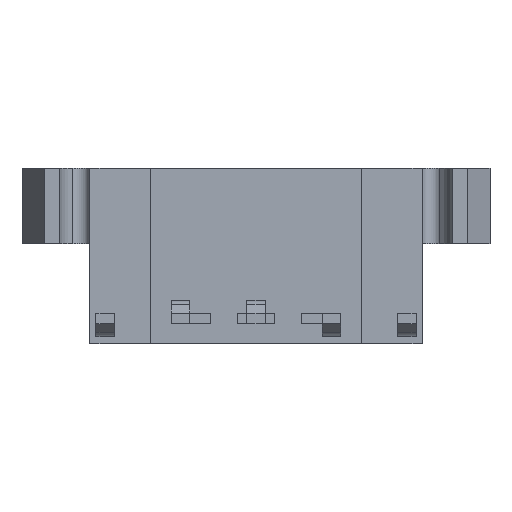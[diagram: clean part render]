
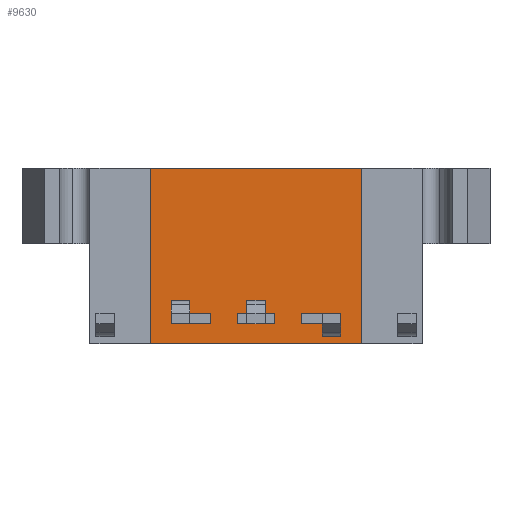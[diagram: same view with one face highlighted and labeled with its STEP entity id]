
A CAD part, front view. The second image highlights one B-rep face of the part: STEP entity #9630.
In plain terms, the highlighted planar face has unit normal (0, -1, 0).
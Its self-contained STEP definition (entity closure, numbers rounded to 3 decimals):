
#891 = LINE ( 'NONE', #11481, #916 ) ;
#893 = VECTOR ( 'NONE', #11511, 1000. ) ;
#908 = LINE ( 'NONE', #11594, #910 ) ;
#909 = LINE ( 'NONE', #11593, #893 ) ;
#910 = VECTOR ( 'NONE', #11667, 1000. ) ;
#913 = VECTOR ( 'NONE', #11642, 1000. ) ;
#916 = VECTOR ( 'NONE', #11537, 1000. ) ;
#917 = LINE ( 'NONE', #11415, #913 ) ;
#922 = LINE ( 'NONE', #11584, #923 ) ;
#923 = VECTOR ( 'NONE', #11596, 1000. ) ;
#932 = VECTOR ( 'NONE', #11520, 1000. ) ;
#933 = LINE ( 'NONE', #11622, #934 ) ;
#934 = VECTOR ( 'NONE', #11621, 1000. ) ;
#953 = LINE ( 'NONE', #11518, #932 ) ;
#958 = LINE ( 'NONE', #11438, #959 ) ;
#959 = VECTOR ( 'NONE', #11571, 1000. ) ;
#966 = LINE ( 'NONE', #11466, #976 ) ;
#976 = VECTOR ( 'NONE', #11461, 1000. ) ;
#1613 = EDGE_LOOP ( 'NONE', ( #10310, #10342, #10358, #10360 ) ) ;
#1647 = EDGE_LOOP ( 'NONE', ( #10323, #10322, #10321, #10319 ) ) ;
#1664 = EDGE_LOOP ( 'NONE', ( #10315, #10312, #10314, #10311 ) ) ;
#3575 = DIRECTION ( 'NONE',  ( 1., 0., 0. ) ) ;
#3578 = CARTESIAN_POINT ( 'NONE',  ( 2.15, 1.5, 1. ) ) ;
#3668 = DIRECTION ( 'NONE',  ( 0., 0., -1. ) ) ;
#3670 = CARTESIAN_POINT ( 'NONE',  ( 1.5, 1.5, 0.825 ) ) ;
#3767 = DIRECTION ( 'NONE',  ( 0., 0., 1. ) ) ;
#3771 = CARTESIAN_POINT ( 'NONE',  ( 2.8, 1.5, 2.9 ) ) ;
#3776 = DIRECTION ( 'NONE',  ( -1., 0., 0. ) ) ;
#3799 = CARTESIAN_POINT ( 'NONE',  ( 0., 1.5, 1. ) ) ;
#3830 = DIRECTION ( 'NONE',  ( -1., 0., 0. ) ) ;
#3834 = CARTESIAN_POINT ( 'NONE',  ( 2.15, 1.5, 0.65 ) ) ;
#3850 = DIRECTION ( 'NONE',  ( 0., 0., 1. ) ) ;
#3854 = CARTESIAN_POINT ( 'NONE',  ( -1.5, 1.5, 2.9 ) ) ;
#3869 = DIRECTION ( 'NONE',  ( 1., 0., 0. ) ) ;
#3870 = CARTESIAN_POINT ( 'NONE',  ( 0., 1.5, 0.65 ) ) ;
#4101 = CARTESIAN_POINT ( 'NONE',  ( -1.5, 1.5, 1. ) ) ;
#4248 = CARTESIAN_POINT ( 'NONE',  ( 2.8, 1.5, 0.65 ) ) ;
#4252 = CARTESIAN_POINT ( 'NONE',  ( 1.5, 1.5, 0.65 ) ) ;
#4254 = CARTESIAN_POINT ( 'NONE',  ( 1.5, 1.5, 1. ) ) ;
#4257 = CARTESIAN_POINT ( 'NONE',  ( 2.8, 1.5, 1. ) ) ;
#4260 = CARTESIAN_POINT ( 'NONE',  ( -0.6, 1.5, 1. ) ) ;
#4270 = CARTESIAN_POINT ( 'NONE',  ( 0.6, 1.5, 1. ) ) ;
#4274 = CARTESIAN_POINT ( 'NONE',  ( 3.5, 1.5, 5.8 ) ) ;
#4297 = CARTESIAN_POINT ( 'NONE',  ( -3.5, 1.5, 5.8 ) ) ;
#4314 = CARTESIAN_POINT ( 'NONE',  ( -0.6, 1.5, 0.65 ) ) ;
#4330 = CARTESIAN_POINT ( 'NONE',  ( -3.5, 1.5, 0. ) ) ;
#4357 = CARTESIAN_POINT ( 'NONE',  ( 0.6, 1.5, 0.65 ) ) ;
#4404 = CARTESIAN_POINT ( 'NONE',  ( -1.5, 1.5, 0.65 ) ) ;
#4464 = CARTESIAN_POINT ( 'NONE',  ( 3.5, 1.5, 0. ) ) ;
#4547 = CARTESIAN_POINT ( 'NONE',  ( -2.8, 1.5, 0.65 ) ) ;
#4549 = CARTESIAN_POINT ( 'NONE',  ( -2.8, 1.5, 1. ) ) ;
#5104 = DIRECTION ( 'NONE',  ( -1., 0., 0. ) ) ;
#5117 = DIRECTION ( 'NONE',  ( 0., 1., 0. ) ) ;
#5233 = CARTESIAN_POINT ( 'NONE',  ( 3.5, 1.5, 0. ) ) ;
#5277 = PLANE ( 'NONE',  #11127 ) ;
#7284 = EDGE_LOOP ( 'NONE', ( #10320, #10317, #10318, #10316 ) ) ;
#9144 = FACE_BOUND ( 'NONE', #7284, .T. ) ;
#9150 = FACE_BOUND ( 'NONE', #1647, .T. ) ;
#9156 = FACE_BOUND ( 'NONE', #1664, .T. ) ;
#9158 = FACE_OUTER_BOUND ( 'NONE', #1613, .T. ) ;
#9363 = EDGE_CURVE ( 'NONE', #10871, #10843, #10211, .T. ) ;
#9365 = EDGE_CURVE ( 'NONE', #10843, #10826, #10215, .T. ) ;
#9368 = EDGE_CURVE ( 'NONE', #10792, #10793, #10221, .T. ) ;
#9376 = EDGE_CURVE ( 'NONE', #10826, #10873, #10224, .T. ) ;
#9377 = EDGE_CURVE ( 'NONE', #10792, #10796, #10239, .T. ) ;
#9385 = EDGE_CURVE ( 'NONE', #10794, #10793, #10250, .T. ) ;
#9396 = EDGE_CURVE ( 'NONE', #10794, #10796, #10272, .T. ) ;
#9630 = ADVANCED_FACE ( 'NONE', ( #9150, #9144, #9156, #9158 ), #5277, .F. ) ;
#10211 = LINE ( 'NONE', #3870, #10212 ) ;
#10212 = VECTOR ( 'NONE', #3869, 1000. ) ;
#10215 = LINE ( 'NONE', #3854, #10216 ) ;
#10216 = VECTOR ( 'NONE', #3850, 1000. ) ;
#10221 = LINE ( 'NONE', #3834, #10222 ) ;
#10222 = VECTOR ( 'NONE', #3830, 1000. ) ;
#10224 = LINE ( 'NONE', #3799, #10237 ) ;
#10237 = VECTOR ( 'NONE', #3776, 1000. ) ;
#10239 = LINE ( 'NONE', #3771, #10240 ) ;
#10240 = VECTOR ( 'NONE', #3767, 1000. ) ;
#10244 = VECTOR ( 'NONE', #3668, 1000. ) ;
#10250 = LINE ( 'NONE', #3670, #10244 ) ;
#10272 = LINE ( 'NONE', #3578, #10273 ) ;
#10273 = VECTOR ( 'NONE', #3575, 1000. ) ;
#10310 = ORIENTED_EDGE ( 'NONE', *, *, #11280, .F. ) ;
#10311 = ORIENTED_EDGE ( 'NONE', *, *, #11251, .F. ) ;
#10312 = ORIENTED_EDGE ( 'NONE', *, *, #11261, .F. ) ;
#10314 = ORIENTED_EDGE ( 'NONE', *, *, #11254, .F. ) ;
#10315 = ORIENTED_EDGE ( 'NONE', *, *, #11247, .F. ) ;
#10316 = ORIENTED_EDGE ( 'NONE', *, *, #9368, .T. ) ;
#10317 = ORIENTED_EDGE ( 'NONE', *, *, #9396, .T. ) ;
#10318 = ORIENTED_EDGE ( 'NONE', *, *, #9377, .F. ) ;
#10319 = ORIENTED_EDGE ( 'NONE', *, *, #9365, .F. ) ;
#10320 = ORIENTED_EDGE ( 'NONE', *, *, #9385, .F. ) ;
#10321 = ORIENTED_EDGE ( 'NONE', *, *, #9376, .F. ) ;
#10322 = ORIENTED_EDGE ( 'NONE', *, *, #11285, .F. ) ;
#10323 = ORIENTED_EDGE ( 'NONE', *, *, #9363, .F. ) ;
#10342 = ORIENTED_EDGE ( 'NONE', *, *, #11248, .F. ) ;
#10358 = ORIENTED_EDGE ( 'NONE', *, *, #11275, .F. ) ;
#10360 = ORIENTED_EDGE ( 'NONE', *, *, #11259, .F. ) ;
#10792 = VERTEX_POINT ( 'NONE', #4248 ) ;
#10793 = VERTEX_POINT ( 'NONE', #4252 ) ;
#10794 = VERTEX_POINT ( 'NONE', #4254 ) ;
#10796 = VERTEX_POINT ( 'NONE', #4257 ) ;
#10797 = VERTEX_POINT ( 'NONE', #4260 ) ;
#10800 = VERTEX_POINT ( 'NONE', #4270 ) ;
#10802 = VERTEX_POINT ( 'NONE', #4274 ) ;
#10803 = VERTEX_POINT ( 'NONE', #4297 ) ;
#10808 = VERTEX_POINT ( 'NONE', #4314 ) ;
#10817 = VERTEX_POINT ( 'NONE', #4357 ) ;
#10826 = VERTEX_POINT ( 'NONE', #4101 ) ;
#10832 = VERTEX_POINT ( 'NONE', #4330 ) ;
#10843 = VERTEX_POINT ( 'NONE', #4404 ) ;
#10857 = VERTEX_POINT ( 'NONE', #4464 ) ;
#10871 = VERTEX_POINT ( 'NONE', #4547 ) ;
#10873 = VERTEX_POINT ( 'NONE', #4549 ) ;
#11127 = AXIS2_PLACEMENT_3D ( 'NONE', #5233, #5117, #5104 ) ;
#11247 = EDGE_CURVE ( 'NONE', #10808, #10817, #909, .T. ) ;
#11248 = EDGE_CURVE ( 'NONE', #10802, #10857, #908, .T. ) ;
#11251 = EDGE_CURVE ( 'NONE', #10817, #10800, #891, .T. ) ;
#11254 = EDGE_CURVE ( 'NONE', #10800, #10797, #922, .T. ) ;
#11259 = EDGE_CURVE ( 'NONE', #10832, #10803, #917, .T. ) ;
#11261 = EDGE_CURVE ( 'NONE', #10797, #10808, #933, .T. ) ;
#11275 = EDGE_CURVE ( 'NONE', #10803, #10802, #953, .T. ) ;
#11280 = EDGE_CURVE ( 'NONE', #10857, #10832, #958, .T. ) ;
#11285 = EDGE_CURVE ( 'NONE', #10873, #10871, #966, .T. ) ;
#11415 = CARTESIAN_POINT ( 'NONE',  ( -3.5, 1.5, 2.9 ) ) ;
#11438 = CARTESIAN_POINT ( 'NONE',  ( 0., 1.5, 0. ) ) ;
#11461 = DIRECTION ( 'NONE',  ( 0., 0., -1. ) ) ;
#11466 = CARTESIAN_POINT ( 'NONE',  ( -2.8, 1.5, 1.042 ) ) ;
#11481 = CARTESIAN_POINT ( 'NONE',  ( 0.6, 1.5, 2.9 ) ) ;
#11511 = DIRECTION ( 'NONE',  ( 1., 0., 0. ) ) ;
#11518 = CARTESIAN_POINT ( 'NONE',  ( 0., 1.5, 5.8 ) ) ;
#11520 = DIRECTION ( 'NONE',  ( 1., 0., 0. ) ) ;
#11537 = DIRECTION ( 'NONE',  ( 0., 0., 1. ) ) ;
#11571 = DIRECTION ( 'NONE',  ( -1., 0., 0. ) ) ;
#11584 = CARTESIAN_POINT ( 'NONE',  ( 0., 1.5, 1. ) ) ;
#11593 = CARTESIAN_POINT ( 'NONE',  ( 0., 1.5, 0.65 ) ) ;
#11594 = CARTESIAN_POINT ( 'NONE',  ( 3.5, 1.5, 2.9 ) ) ;
#11596 = DIRECTION ( 'NONE',  ( -1., 0., 0. ) ) ;
#11621 = DIRECTION ( 'NONE',  ( 0., 0., -1. ) ) ;
#11622 = CARTESIAN_POINT ( 'NONE',  ( -0.6, 1.5, 2.9 ) ) ;
#11642 = DIRECTION ( 'NONE',  ( 0., 0., 1. ) ) ;
#11667 = DIRECTION ( 'NONE',  ( 0., 0., -1. ) ) ;
